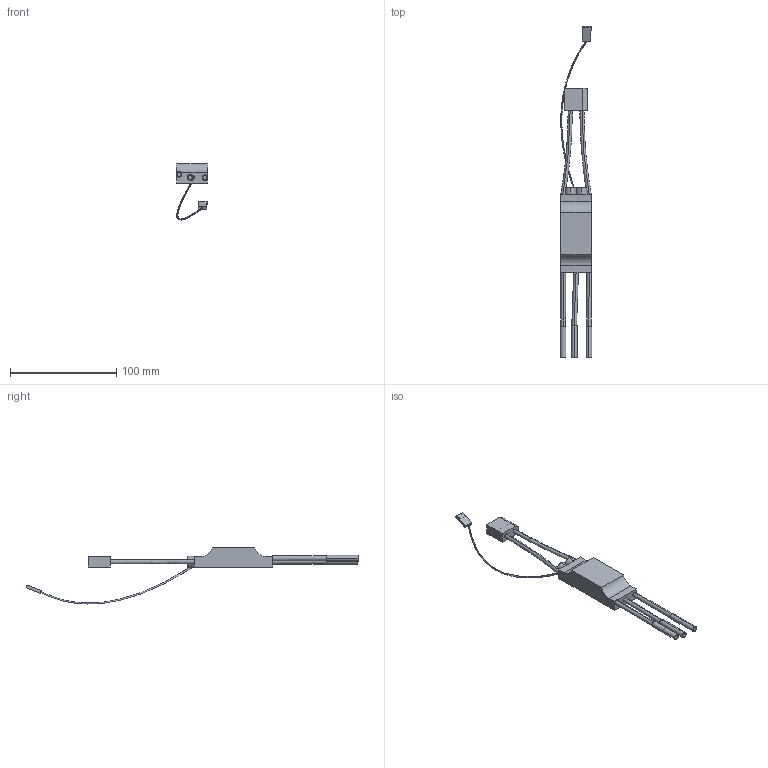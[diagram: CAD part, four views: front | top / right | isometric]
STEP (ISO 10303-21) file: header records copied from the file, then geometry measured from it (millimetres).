
FILE_DESCRIPTION (( 'STEP AP214' ), '1' );
FILE_NAME ('BESC500-R1.STEP', '2023-02-27T22:51:06', ( '' ), ( '' ), 'SwSTEP 2.0', 'SolidWorks 2022', '' );
FILE_SCHEMA (( 'AUTOMOTIVE_DESIGN' ));
Length unit declared in the file: millimetre
Products named in the file (1): BESC500-R1
Bounding box: 29.53 x 311.82 x 52.62 mm (x, y, z)
Volume: 41825.1 mm3; surface area: 17515.9 mm2
Topology: 1 solids, 1 shells, 95 faces, 223 edges, 145 vertices
Faces by surface type: plane 61, cylinder 22, bspline 12
Entity records: 4047 total; most frequent: CARTESIAN_POINT 1300, ORIENTED_EDGE 446, DIRECTION 438, EDGE_CURVE 223, AXIS2_PLACEMENT_3D 153, VERTEX_POINT 145, LINE 132, VECTOR 132
